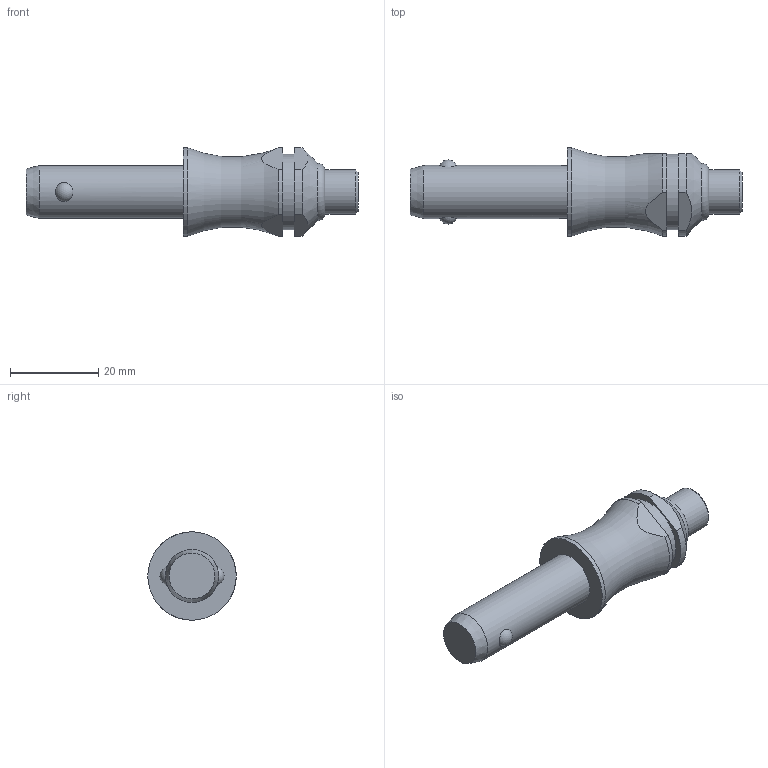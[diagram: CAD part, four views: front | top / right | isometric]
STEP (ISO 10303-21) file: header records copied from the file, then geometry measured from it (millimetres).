
FILE_DESCRIPTION( ( 'STEP AP203' ), '1' );
FILE_NAME( 'C:/Temp/Ganter_Step_05_03_2020/data/3_1/gn113_3/Stainless Steel-Ball lock pin GN 113.3-12-25 (deactivated).stp', '2020-03-12T08:18:40', ( 'License CC BY-ND 4.0' ), ( 'CADENAS' ), ' ', 'PARTsolutions', ' ' );
FILE_SCHEMA( ( 'CONFIG_CONTROL_DESIGN' ) );
Length unit declared in the file: millimetre
Products named in the file (1): _Stainless Steel-Ball lock pin GN 113.3-12-25 (deactivated)
Bounding box: 75.1 x 20 x 20 mm (x, y, z)
Volume: 11965 mm3; surface area: 3904.4 mm2
Topology: 1 solids, 1 shells, 28 faces, 60 edges, 39 vertices
Faces by surface type: plane 11, cylinder 10, cone 3, torus 2, sphere 2
Full cylindrical faces by diameter (mm): 10 x1, 12 x1, 17 x1, 20 x1
Entity records: 954 total; most frequent: CARTESIAN_POINT 338, DIRECTION 122, ORIENTED_EDGE 98, AXIS2_PLACEMENT_3D 52, EDGE_CURVE 49, EDGE_LOOP 42, VERTEX_POINT 38, FACE_OUTER_BOUND 34
